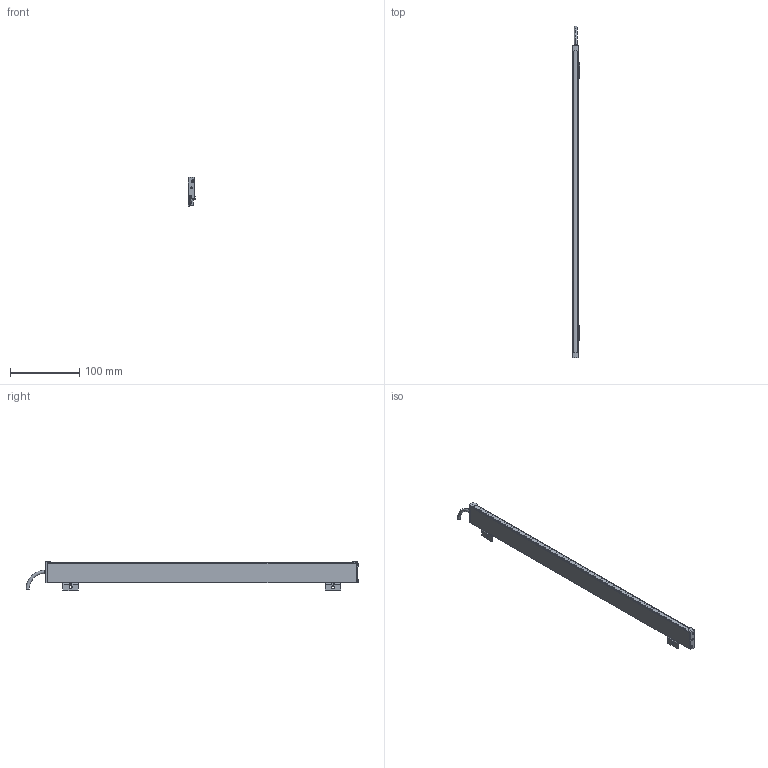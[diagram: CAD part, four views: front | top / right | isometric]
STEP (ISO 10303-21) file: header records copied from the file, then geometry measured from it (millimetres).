
FILE_DESCRIPTION (( 'STEP AP214' ), '1' );
FILE_NAME ('ILG-N-K1-0450mm.STEP', '2017-07-10T13:18:44', ( '' ), ( '' ), 'SwSTEP 2.0', 'SolidWorks 2016', '' );
FILE_SCHEMA (( 'AUTOMOTIVE_DESIGN' ));
Length unit declared in the file: millimetre
Products named in the file (1): ILG-N-K1-0450mm
Bounding box: 10.23 x 478.25 x 42.41 mm (x, y, z)
Volume: 53717.5 mm3; surface area: 78991.6 mm2
Topology: 11 solids, 11 shells, 491 faces, 1247 edges, 776 vertices
Faces by surface type: plane 263, cylinder 154, cone 64, torus 10
Entity records: 20226 total; most frequent: CARTESIAN_POINT 2663, DIRECTION 2595, ORIENTED_EDGE 2478, EDGE_CURVE 1239, AXIS2_PLACEMENT_3D 916, VERTEX_POINT 776, VECTOR 763, LINE 763
